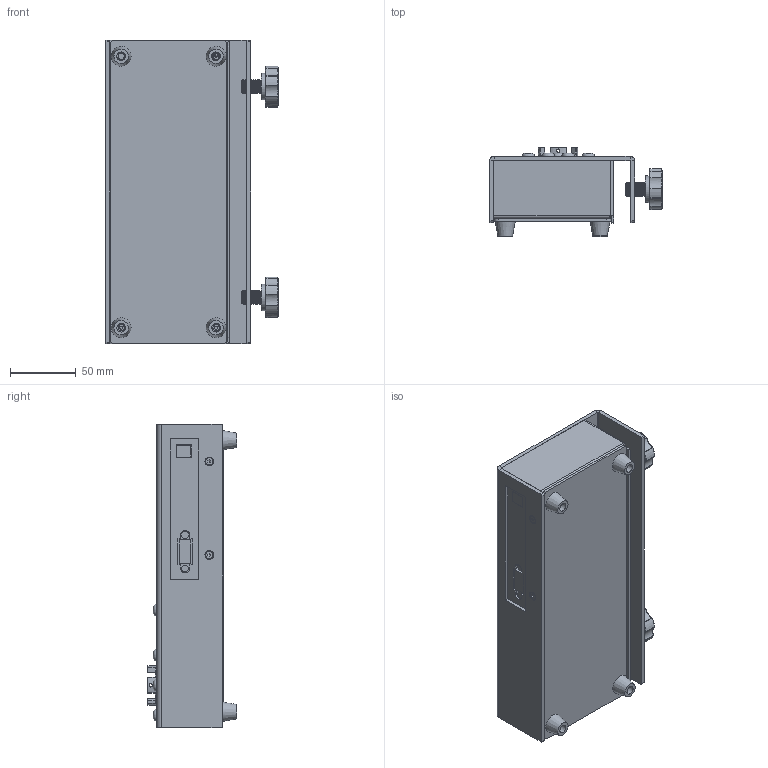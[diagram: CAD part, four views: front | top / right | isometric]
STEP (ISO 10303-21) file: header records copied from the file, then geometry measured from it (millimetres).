
FILE_DESCRIPTION (( 'STEP AP203' ), '1' );
FILE_NAME ('ZD-10 聾薯聆彸痀.STEP', '2026-10-19T07:27:54', ( 'Windows User' ), ( 'P R C' ), 'SwSTEP 2.0', 'SolidWorks 2025', '' );
FILE_SCHEMA (( 'CONFIG_CONTROL_DESIGN' ));
Products named in the file (1): ZD-10 扭力测试仪
Bounding box: 131 x 67.75 x 230 mm (x, y, z)
Surface area: 204580.8 mm2 (no closed solid volume)
Topology: 0 solids, 62 shells, 736 faces, 4217 edges, 3660 vertices
Faces by surface type: plane 515, cylinder 130, torus 30, bspline 27, cone 24, sphere 10
Full cylindrical faces by diameter (mm): 2.5 x4, 3 x14, 3.4 x2, 3.6 x4, 6.5 x4, 20 x3, 30 x1, 31 x1
Entity records: 54754 total; most frequent: CARTESIAN_POINT 25539, ORIENTED_EDGE 7447, EDGE_CURVE 4135, DIRECTION 3641, VERTEX_POINT 3639, B_SPLINE_CURVE_WITH_KNOTS 2510, AXIS2_PLACEMENT_3D 1322, EDGE_LOOP 1164
